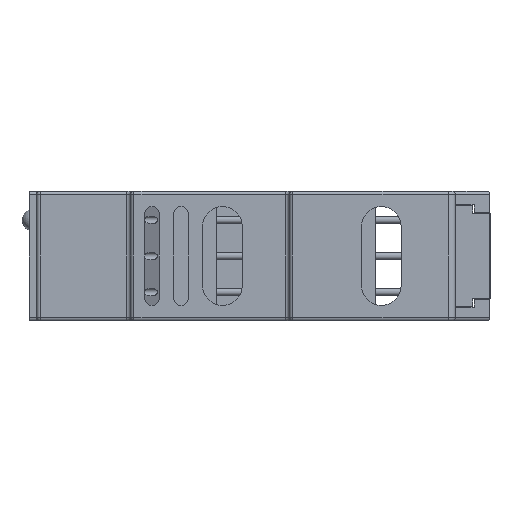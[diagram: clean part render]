
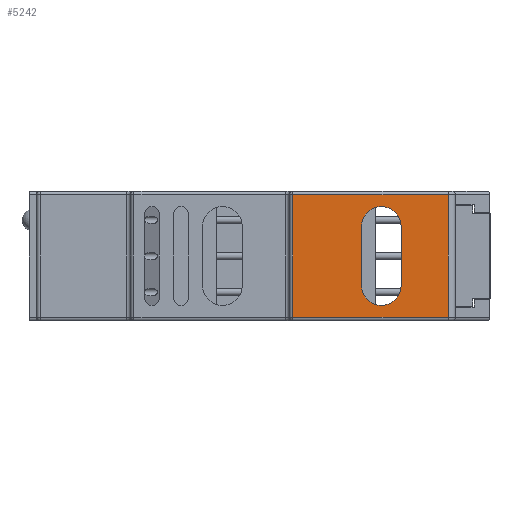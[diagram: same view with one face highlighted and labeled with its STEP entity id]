
A CAD part, left-side view. The second image highlights one B-rep face of the part: STEP entity #5242.
In plain terms, the highlighted planar face has unit normal (-1, 0, 0).
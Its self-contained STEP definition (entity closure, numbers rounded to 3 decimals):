
#5242=ADVANCED_FACE('',(#58828,#58830),#58832,.T.);
#58828=FACE_BOUND('',#58829,.T.);
#58829=EDGE_LOOP('',(#103993,#103994,#103995,#103996));
#58830=FACE_BOUND('',#58831,.T.);
#58831=EDGE_LOOP('',(#103997,#103998,#103999,#104000));
#58832=PLANE('',#58833);
#58833=AXIS2_PLACEMENT_3D('',#58834,#58835,#58836);
#58834=CARTESIAN_POINT('',(-45.,23.,0.));
#58835=DIRECTION('',(-1.,0.,0.));
#58836=DIRECTION('',(0.,-1.,0.));
#103993=ORIENTED_EDGE('',*,*,#134169,.T.);
#103994=ORIENTED_EDGE('',*,*,#136487,.F.);
#103995=ORIENTED_EDGE('',*,*,#134235,.T.);
#103996=ORIENTED_EDGE('',*,*,#136488,.T.);
#103997=ORIENTED_EDGE('',*,*,#136489,.T.);
#103998=ORIENTED_EDGE('',*,*,#136490,.T.);
#103999=ORIENTED_EDGE('',*,*,#136491,.T.);
#104000=ORIENTED_EDGE('',*,*,#136492,.T.);
#134169=EDGE_CURVE('',#152122,#152119,#152123,.T.);
#134235=EDGE_CURVE('',#152225,#152226,#152227,.T.);
#136487=EDGE_CURVE('',#152225,#152119,#156593,.T.);
#136488=EDGE_CURVE('',#152226,#152122,#156594,.T.);
#136489=EDGE_CURVE('',#156595,#156596,#156597,.F.);
#136490=EDGE_CURVE('',#156596,#156598,#156599,.F.);
#136491=EDGE_CURVE('',#156598,#156600,#156601,.F.);
#136492=EDGE_CURVE('',#156600,#156595,#156602,.F.);
#152119=VERTEX_POINT('',#183281);
#152122=VERTEX_POINT('',#183290);
#152123=LINE('',#183291,#183292);
#152225=VERTEX_POINT('',#183550);
#152226=VERTEX_POINT('',#183551);
#152227=LINE('',#183552,#183553);
#156593=LINE('',#193784,#193785);
#156594=LINE('',#193787,#193788);
#156595=VERTEX_POINT('',#193790);
#156596=VERTEX_POINT('',#193791);
#156597=CIRCLE('',#193792,2.75);
#156598=VERTEX_POINT('',#193796);
#156599=LINE('',#193797,#193798);
#156600=VERTEX_POINT('',#193800);
#156601=CIRCLE('',#193801,2.75);
#156602=LINE('',#193805,#193806);
#183281=CARTESIAN_POINT('',(-45.,1.,0.5));
#183290=CARTESIAN_POINT('',(-45.,22.5,0.5));
#183291=CARTESIAN_POINT('',(-45.,22.5,0.5));
#183292=VECTOR('',#183293,1.);
#183293=DIRECTION('',(0.,-1.,0.));
#183550=CARTESIAN_POINT('',(-45.,1.,17.5));
#183551=CARTESIAN_POINT('',(-45.,22.5,17.5));
#183552=CARTESIAN_POINT('',(-45.,1.,17.5));
#183553=VECTOR('',#183554,1.);
#183554=DIRECTION('',(0.,1.,0.));
#193784=CARTESIAN_POINT('',(-45.,1.,17.5));
#193785=VECTOR('',#193786,1.);
#193786=DIRECTION('',(0.,0.,-1.));
#193787=CARTESIAN_POINT('',(-45.,22.5,17.5));
#193788=VECTOR('',#193789,1.);
#193789=DIRECTION('',(0.,0.,-1.));
#193790=CARTESIAN_POINT('',(-45.,7.5,4.9));
#193791=CARTESIAN_POINT('',(-45.,13.,4.9));
#193792=AXIS2_PLACEMENT_3D('',#193793,#193794,#193795);
#193793=CARTESIAN_POINT('',(-45.,10.25,4.9));
#193794=DIRECTION('',(-1.,0.,0.));
#193795=DIRECTION('',(0.,1.,0.));
#193796=CARTESIAN_POINT('',(-45.,13.,13.1));
#193797=CARTESIAN_POINT('',(-45.,13.,13.1));
#193798=VECTOR('',#193799,1.);
#193799=DIRECTION('',(0.,0.,-1.));
#193800=CARTESIAN_POINT('',(-45.,7.5,13.1));
#193801=AXIS2_PLACEMENT_3D('',#193802,#193803,#193804);
#193802=CARTESIAN_POINT('',(-45.,10.25,13.1));
#193803=DIRECTION('',(-1.,0.,0.));
#193804=DIRECTION('',(0.,-1.,0.));
#193805=CARTESIAN_POINT('',(-45.,7.5,4.9));
#193806=VECTOR('',#193807,1.);
#193807=DIRECTION('',(0.,0.,1.));
